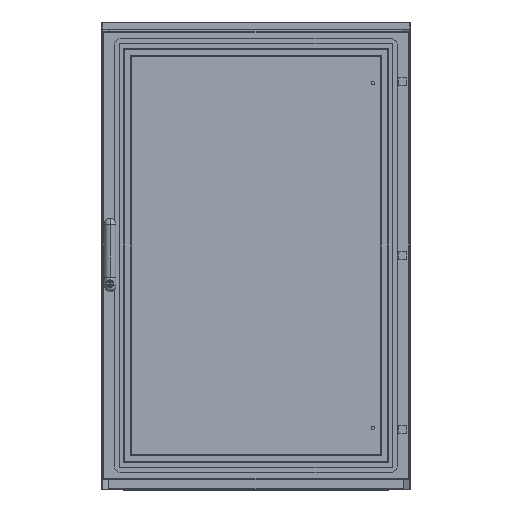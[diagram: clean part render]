
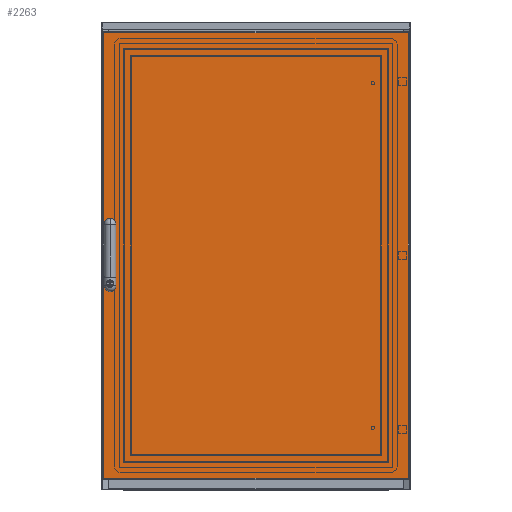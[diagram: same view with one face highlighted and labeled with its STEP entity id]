
A CAD part, front view. The second image highlights one B-rep face of the part: STEP entity #2263.
In plain terms, the highlighted planar face has unit normal (0, -1, 0) as drawn and (0, 0, 1) by its records, which use the part's own axes.
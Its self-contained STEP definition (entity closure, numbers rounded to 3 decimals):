
#268 = DIRECTION ( 'NONE',  ( 0., 1., 0. ) ) ;
#656 = ORIENTED_EDGE ( 'NONE', *, *, #35978, .F. ) ;
#763 = DIRECTION ( 'NONE',  ( 1., 0., 0. ) ) ;
#1225 = CARTESIAN_POINT ( 'NONE',  ( 28.7, 660.25, 19. ) ) ;
#1892 = VERTEX_POINT ( 'NONE', #10590 ) ;
#1913 = CARTESIAN_POINT ( 'NONE',  ( 791., 3., 19. ) ) ;
#1977 = VECTOR ( 'NONE', #21833, 1000. ) ;
#2059 = EDGE_CURVE ( 'NONE', #3892, #15344, #26969, .T. ) ;
#2263 = ADVANCED_FACE ( 'NONE', ( #4706, #28874, #16699 ), #28498, .F. ) ;
#3087 = CIRCLE ( 'NONE', #6168, 9.5 ) ;
#3148 = DIRECTION ( 'NONE',  ( 0., 1., 0. ) ) ;
#3231 = VECTOR ( 'NONE', #763, 1000. ) ;
#3566 = VECTOR ( 'NONE', #20842, 1000. ) ;
#3892 = VERTEX_POINT ( 'NONE', #21798 ) ;
#4696 = EDGE_LOOP ( 'NONE', ( #4949, #656, #8029, #22490 ) ) ;
#4706 = FACE_BOUND ( 'NONE', #24387, .T. ) ;
#4710 = DIRECTION ( 'NONE',  ( 1., 0., 0. ) ) ;
#4949 = ORIENTED_EDGE ( 'NONE', *, *, #32657, .F. ) ;
#5183 = CARTESIAN_POINT ( 'NONE',  ( 28.7, 499.75, 19. ) ) ;
#5861 = CIRCLE ( 'NONE', #9617, 9.5 ) ;
#6168 = AXIS2_PLACEMENT_3D ( 'NONE', #36137, #9643, #21420 ) ;
#6258 = EDGE_LOOP ( 'NONE', ( #31441, #36791, #9422, #35478 ) ) ;
#6269 = EDGE_CURVE ( 'NONE', #33890, #35322, #24743, .T. ) ;
#6829 = VERTEX_POINT ( 'NONE', #1913 ) ;
#7656 = DIRECTION ( 'NONE',  ( 0., -1., 0. ) ) ;
#7836 = DIRECTION ( 'NONE',  ( 0., -1., 0. ) ) ;
#8029 = ORIENTED_EDGE ( 'NONE', *, *, #2059, .F. ) ;
#8172 = CARTESIAN_POINT ( 'NONE',  ( 9.7, 612.25, 19. ) ) ;
#9061 = CARTESIAN_POINT ( 'NONE',  ( 0., 1157., 19. ) ) ;
#9422 = ORIENTED_EDGE ( 'NONE', *, *, #28851, .T. ) ;
#9505 = DIRECTION ( 'NONE',  ( 1., 0., 0. ) ) ;
#9553 = CARTESIAN_POINT ( 'NONE',  ( 28.7, 547.75, 19. ) ) ;
#9617 = AXIS2_PLACEMENT_3D ( 'NONE', #35991, #14895, #9505 ) ;
#9643 = DIRECTION ( 'NONE',  ( 0., 0., 1. ) ) ;
#10561 = LINE ( 'NONE', #16518, #18199 ) ;
#10590 = CARTESIAN_POINT ( 'NONE',  ( 28.7, 547.75, 19. ) ) ;
#10925 = CARTESIAN_POINT ( 'NONE',  ( 9.7, 660.25, 19. ) ) ;
#10953 = DIRECTION ( 'NONE',  ( 0., 1., 0. ) ) ;
#12285 = VECTOR ( 'NONE', #268, 1000. ) ;
#12965 = LINE ( 'NONE', #24558, #3231 ) ;
#13536 = EDGE_CURVE ( 'NONE', #37557, #1892, #29655, .T. ) ;
#14895 = DIRECTION ( 'NONE',  ( 0., 0., 1. ) ) ;
#15127 = DIRECTION ( 'NONE',  ( 1., 0., 0. ) ) ;
#15344 = VERTEX_POINT ( 'NONE', #1225 ) ;
#16518 = CARTESIAN_POINT ( 'NONE',  ( 3., 1160., 19. ) ) ;
#16699 = FACE_OUTER_BOUND ( 'NONE', #6258, .T. ) ;
#16864 = ORIENTED_EDGE ( 'NONE', *, *, #21081, .F. ) ;
#17024 = CARTESIAN_POINT ( 'NONE',  ( 9.7, 547.75, 19. ) ) ;
#17869 = EDGE_CURVE ( 'NONE', #26753, #22815, #35539, .T. ) ;
#17966 = CARTESIAN_POINT ( 'NONE',  ( 791., 1157., 19. ) ) ;
#18199 = VECTOR ( 'NONE', #7656, 1000. ) ;
#18967 = ORIENTED_EDGE ( 'NONE', *, *, #13536, .F. ) ;
#19054 = CARTESIAN_POINT ( 'NONE',  ( 19.2, 547.75, 19. ) ) ;
#19372 = CIRCLE ( 'NONE', #28012, 9.5 ) ;
#19811 = CARTESIAN_POINT ( 'NONE',  ( 0., 1160., 19. ) ) ;
#19994 = DIRECTION ( 'NONE',  ( -1., 0., 0. ) ) ;
#20060 = VECTOR ( 'NONE', #3148, 1000. ) ;
#20842 = DIRECTION ( 'NONE',  ( -1., 0., 0. ) ) ;
#21081 = EDGE_CURVE ( 'NONE', #35322, #37557, #5861, .T. ) ;
#21420 = DIRECTION ( 'NONE',  ( 1., 0., 0. ) ) ;
#21798 = CARTESIAN_POINT ( 'NONE',  ( 28.7, 612.25, 19. ) ) ;
#21833 = DIRECTION ( 'NONE',  ( 0., -1., 0. ) ) ;
#22490 = ORIENTED_EDGE ( 'NONE', *, *, #32059, .F. ) ;
#22815 = VERTEX_POINT ( 'NONE', #35295 ) ;
#24387 = EDGE_LOOP ( 'NONE', ( #30350, #29676, #18967, #16864 ) ) ;
#24558 = CARTESIAN_POINT ( 'NONE',  ( 0., 3., 19. ) ) ;
#24665 = DIRECTION ( 'NONE',  ( 0., 0., 1. ) ) ;
#24743 = LINE ( 'NONE', #36522, #1977 ) ;
#26258 = CARTESIAN_POINT ( 'NONE',  ( 3., 3., 19. ) ) ;
#26609 = VECTOR ( 'NONE', #7836, 1000. ) ;
#26753 = VERTEX_POINT ( 'NONE', #17966 ) ;
#26969 = LINE ( 'NONE', #29488, #12285 ) ;
#27121 = CARTESIAN_POINT ( 'NONE',  ( 19.2, 660.25, 19. ) ) ;
#28012 = AXIS2_PLACEMENT_3D ( 'NONE', #27121, #29639, #15127 ) ;
#28498 = PLANE ( 'NONE',  #35744 ) ;
#28508 = LINE ( 'NONE', #10925, #26609 ) ;
#28611 = CIRCLE ( 'NONE', #30471, 9.5 ) ;
#28851 = EDGE_CURVE ( 'NONE', #22815, #34546, #10561, .T. ) ;
#28874 = FACE_BOUND ( 'NONE', #4696, .T. ) ;
#29097 = VECTOR ( 'NONE', #10953, 1000. ) ;
#29488 = CARTESIAN_POINT ( 'NONE',  ( 28.7, 660.25, 19. ) ) ;
#29639 = DIRECTION ( 'NONE',  ( 0., 0., 1. ) ) ;
#29655 = LINE ( 'NONE', #9553, #20060 ) ;
#29676 = ORIENTED_EDGE ( 'NONE', *, *, #35616, .F. ) ;
#30350 = ORIENTED_EDGE ( 'NONE', *, *, #6269, .F. ) ;
#30471 = AXIS2_PLACEMENT_3D ( 'NONE', #19054, #24665, #4710 ) ;
#31317 = CARTESIAN_POINT ( 'NONE',  ( 9.7, 499.75, 19. ) ) ;
#31441 = ORIENTED_EDGE ( 'NONE', *, *, #33102, .T. ) ;
#31603 = DIRECTION ( 'NONE',  ( 0., 0., -1. ) ) ;
#32015 = LINE ( 'NONE', #37429, #29097 ) ;
#32059 = EDGE_CURVE ( 'NONE', #34780, #3892, #3087, .T. ) ;
#32207 = CARTESIAN_POINT ( 'NONE',  ( 9.7, 660.25, 19. ) ) ;
#32657 = EDGE_CURVE ( 'NONE', #33069, #34780, #28508, .T. ) ;
#33069 = VERTEX_POINT ( 'NONE', #32207 ) ;
#33102 = EDGE_CURVE ( 'NONE', #6829, #26753, #32015, .T. ) ;
#33890 = VERTEX_POINT ( 'NONE', #17024 ) ;
#34241 = EDGE_CURVE ( 'NONE', #34546, #6829, #12965, .T. ) ;
#34546 = VERTEX_POINT ( 'NONE', #26258 ) ;
#34780 = VERTEX_POINT ( 'NONE', #8172 ) ;
#35295 = CARTESIAN_POINT ( 'NONE',  ( 3., 1157., 19. ) ) ;
#35322 = VERTEX_POINT ( 'NONE', #31317 ) ;
#35478 = ORIENTED_EDGE ( 'NONE', *, *, #34241, .T. ) ;
#35539 = LINE ( 'NONE', #9061, #3566 ) ;
#35616 = EDGE_CURVE ( 'NONE', #1892, #33890, #28611, .T. ) ;
#35744 = AXIS2_PLACEMENT_3D ( 'NONE', #19811, #31603, #19994 ) ;
#35978 = EDGE_CURVE ( 'NONE', #15344, #33069, #19372, .T. ) ;
#35991 = CARTESIAN_POINT ( 'NONE',  ( 19.2, 499.75, 19. ) ) ;
#36137 = CARTESIAN_POINT ( 'NONE',  ( 19.2, 612.25, 19. ) ) ;
#36522 = CARTESIAN_POINT ( 'NONE',  ( 9.7, 547.75, 19. ) ) ;
#36791 = ORIENTED_EDGE ( 'NONE', *, *, #17869, .T. ) ;
#37429 = CARTESIAN_POINT ( 'NONE',  ( 791., 1160., 19. ) ) ;
#37557 = VERTEX_POINT ( 'NONE', #5183 ) ;
